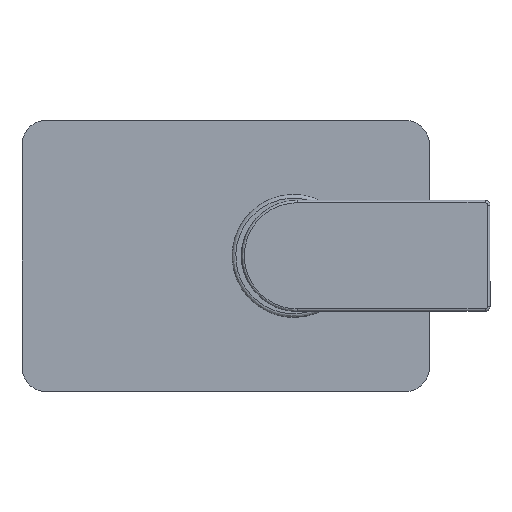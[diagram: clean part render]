
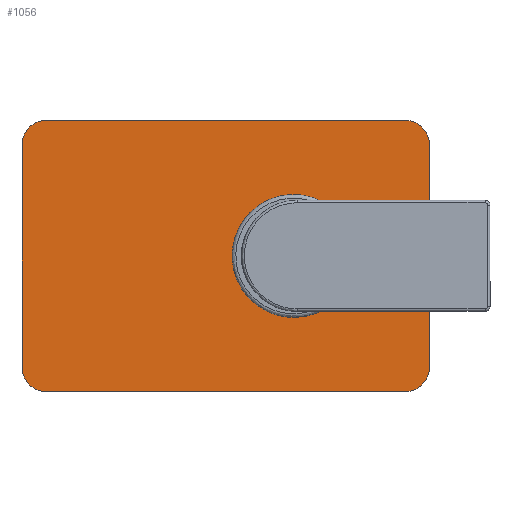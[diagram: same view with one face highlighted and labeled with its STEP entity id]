
A CAD part, top view. The second image highlights one B-rep face of the part: STEP entity #1056.
In plain terms, the highlighted planar face has unit normal (0, 0, 1).
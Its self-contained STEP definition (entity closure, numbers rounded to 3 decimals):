
#7 = EDGE_CURVE ( 'NONE', #370, #370, #1605, .T. ) ;
#10 = CARTESIAN_POINT ( 'NONE',  ( 49.25, 89.825, 28.753 ) ) ;
#26 = DIRECTION ( 'NONE',  ( 0., 1., 0. ) ) ;
#66 = CARTESIAN_POINT ( 'NONE',  ( 59.25, 79.825, 28.753 ) ) ;
#100 = CARTESIAN_POINT ( 'NONE',  ( 49.25, -20.175, 28.753 ) ) ;
#142 = ORIENTED_EDGE ( 'NONE', *, *, #1844, .T. ) ;
#172 = DIRECTION ( 'NONE',  ( 0., 1., 0. ) ) ;
#173 = VECTOR ( 'NONE', #2206, 1000. ) ;
#198 = VECTOR ( 'NONE', #1678, 1000. ) ;
#208 = EDGE_CURVE ( 'NONE', #2499, #2871, #725, .T. ) ;
#226 = EDGE_CURVE ( 'NONE', #1456, #2499, #1018, .T. ) ;
#262 = DIRECTION ( 'NONE',  ( -0.924, -0.383, 0. ) ) ;
#274 = VERTEX_POINT ( 'NONE', #1285 ) ;
#281 = DIRECTION ( 'NONE',  ( 0., 1., 0. ) ) ;
#297 = CARTESIAN_POINT ( 'NONE',  ( -95.75, 79.825, 28.753 ) ) ;
#328 = EDGE_CURVE ( 'NONE', #2871, #1908, #1695, .T. ) ;
#370 = VERTEX_POINT ( 'NONE', #1227 ) ;
#424 = AXIS2_PLACEMENT_3D ( 'NONE', #623, #2419, #172 ) ;
#490 = ORIENTED_EDGE ( 'NONE', *, *, #208, .T. ) ;
#495 = CARTESIAN_POINT ( 'NONE',  ( -95.75, -20.175, 28.753 ) ) ;
#506 = DIRECTION ( 'NONE',  ( 0., 0., 1. ) ) ;
#510 = CIRCLE ( 'NONE', #608, 10. ) ;
#566 = CARTESIAN_POINT ( 'NONE',  ( 59.25, -10.175, 28.753 ) ) ;
#608 = AXIS2_PLACEMENT_3D ( 'NONE', #2783, #506, #1838 ) ;
#623 = CARTESIAN_POINT ( 'NONE',  ( -95.75, -10.175, 28.753 ) ) ;
#725 = LINE ( 'NONE', #789, #198 ) ;
#730 = ORIENTED_EDGE ( 'NONE', *, *, #2127, .T. ) ;
#758 = EDGE_CURVE ( 'NONE', #976, #996, #911, .T. ) ;
#777 = DIRECTION ( 'NONE',  ( 0., 0., 1. ) ) ;
#789 = CARTESIAN_POINT ( 'NONE',  ( -105.75, 79.825, 28.753 ) ) ;
#803 = VECTOR ( 'NONE', #1696, 1000. ) ;
#815 = LINE ( 'NONE', #1921, #803 ) ;
#865 = CARTESIAN_POINT ( 'NONE',  ( 4.25, 34.825, 28.753 ) ) ;
#911 = LINE ( 'NONE', #66, #1330 ) ;
#937 = ORIENTED_EDGE ( 'NONE', *, *, #2347, .T. ) ;
#976 = VERTEX_POINT ( 'NONE', #566 ) ;
#996 = VERTEX_POINT ( 'NONE', #2544 ) ;
#1002 = CARTESIAN_POINT ( 'NONE',  ( -105.75, 79.825, 28.753 ) ) ;
#1018 = CIRCLE ( 'NONE', #1709, 10. ) ;
#1032 = AXIS2_PLACEMENT_3D ( 'NONE', #865, #1947, #1721 ) ;
#1053 = ORIENTED_EDGE ( 'NONE', *, *, #7, .T. ) ;
#1056 = ADVANCED_FACE ( 'NONE', ( #1526, #1753 ), #1058, .F. ) ;
#1058 = PLANE ( 'NONE',  #1032 ) ;
#1086 = CIRCLE ( 'NONE', #1820, 10. ) ;
#1107 = AXIS2_PLACEMENT_3D ( 'NONE', #1823, #1808, #262 ) ;
#1187 = DIRECTION ( 'NONE',  ( 0., 1., 0. ) ) ;
#1227 = CARTESIAN_POINT ( 'NONE',  ( -18.751, 25.287, 28.753 ) ) ;
#1285 = CARTESIAN_POINT ( 'NONE',  ( 49.25, 89.825, 28.753 ) ) ;
#1330 = VECTOR ( 'NONE', #26, 1000. ) ;
#1332 = ORIENTED_EDGE ( 'NONE', *, *, #2416, .T. ) ;
#1456 = VERTEX_POINT ( 'NONE', #1535 ) ;
#1469 = DIRECTION ( 'NONE',  ( 0., 0., 1. ) ) ;
#1486 = ORIENTED_EDGE ( 'NONE', *, *, #226, .T. ) ;
#1526 = FACE_BOUND ( 'NONE', #2469, .T. ) ;
#1535 = CARTESIAN_POINT ( 'NONE',  ( -95.75, 89.825, 28.753 ) ) ;
#1541 = LINE ( 'NONE', #10, #173 ) ;
#1605 = CIRCLE ( 'NONE', #1107, 24.9 ) ;
#1633 = ORIENTED_EDGE ( 'NONE', *, *, #758, .T. ) ;
#1678 = DIRECTION ( 'NONE',  ( 0., -1., 0. ) ) ;
#1695 = CIRCLE ( 'NONE', #424, 10. ) ;
#1696 = DIRECTION ( 'NONE',  ( 1., 0., 0. ) ) ;
#1709 = AXIS2_PLACEMENT_3D ( 'NONE', #297, #1469, #281 ) ;
#1721 = DIRECTION ( 'NONE',  ( -1., 0., 0. ) ) ;
#1753 = FACE_OUTER_BOUND ( 'NONE', #2018, .T. ) ;
#1808 = DIRECTION ( 'NONE',  ( 0., 0., -1. ) ) ;
#1820 = AXIS2_PLACEMENT_3D ( 'NONE', #2353, #777, #1187 ) ;
#1823 = CARTESIAN_POINT ( 'NONE',  ( 4.25, 34.825, 28.753 ) ) ;
#1838 = DIRECTION ( 'NONE',  ( 0., 1., 0. ) ) ;
#1844 = EDGE_CURVE ( 'NONE', #274, #1456, #1541, .T. ) ;
#1908 = VERTEX_POINT ( 'NONE', #495 ) ;
#1921 = CARTESIAN_POINT ( 'NONE',  ( 49.25, -20.175, 28.753 ) ) ;
#1947 = DIRECTION ( 'NONE',  ( 0., 0., -1. ) ) ;
#2018 = EDGE_LOOP ( 'NONE', ( #1332, #1633, #937, #142, #1486, #490, #2051, #730 ) ) ;
#2051 = ORIENTED_EDGE ( 'NONE', *, *, #328, .T. ) ;
#2077 = VERTEX_POINT ( 'NONE', #100 ) ;
#2127 = EDGE_CURVE ( 'NONE', #1908, #2077, #815, .T. ) ;
#2206 = DIRECTION ( 'NONE',  ( -1., 0., 0. ) ) ;
#2213 = CARTESIAN_POINT ( 'NONE',  ( -105.75, -10.175, 28.753 ) ) ;
#2347 = EDGE_CURVE ( 'NONE', #996, #274, #510, .T. ) ;
#2353 = CARTESIAN_POINT ( 'NONE',  ( 49.25, -10.175, 28.753 ) ) ;
#2416 = EDGE_CURVE ( 'NONE', #2077, #976, #1086, .T. ) ;
#2419 = DIRECTION ( 'NONE',  ( 0., 0., 1. ) ) ;
#2469 = EDGE_LOOP ( 'NONE', ( #1053 ) ) ;
#2499 = VERTEX_POINT ( 'NONE', #1002 ) ;
#2544 = CARTESIAN_POINT ( 'NONE',  ( 59.25, 79.825, 28.753 ) ) ;
#2783 = CARTESIAN_POINT ( 'NONE',  ( 49.25, 79.825, 28.753 ) ) ;
#2871 = VERTEX_POINT ( 'NONE', #2213 ) ;
